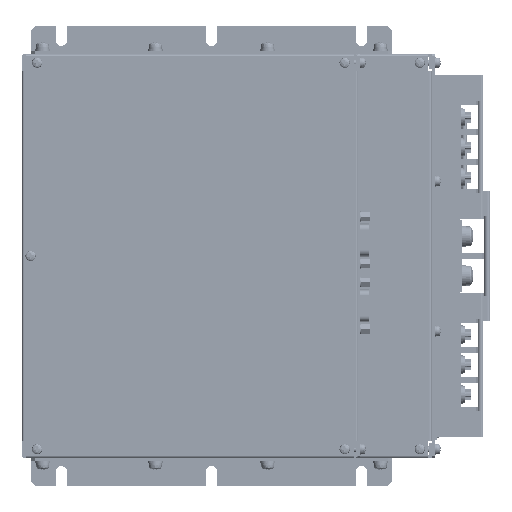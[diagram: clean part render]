
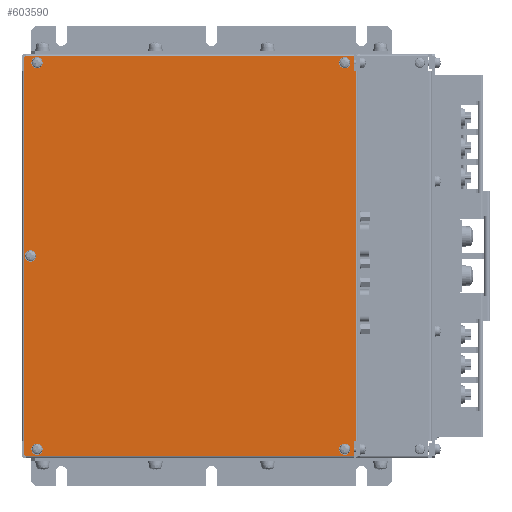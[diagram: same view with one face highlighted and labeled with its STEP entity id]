
A CAD part, left-side view. The second image highlights one B-rep face of the part: STEP entity #603590.
In plain terms, the highlighted planar face has unit normal (-1, 0, 0).
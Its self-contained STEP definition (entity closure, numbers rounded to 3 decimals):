
#603403=CARTESIAN_POINT('',(-95.,0.,0.));
#603404=DIRECTION('',(-1.,0.,0.));
#603405=DIRECTION('',(0.,-1.,0.));
#603406=AXIS2_PLACEMENT_3D('',#603403,#603404,#603405);
#603407=PLANE('',#603406);
#603408=CARTESIAN_POINT('',(-95.,-170.25,103.));
#603409=VERTEX_POINT('',#603408);
#603410=CARTESIAN_POINT('',(-95.,-173.75,103.));
#603411=VERTEX_POINT('',#603410);
#603412=CARTESIAN_POINT('',(-95.,-172.,103.));
#603413=DIRECTION('',(-1.,0.,0.));
#603414=DIRECTION('',(0.,-1.,0.));
#603415=AXIS2_PLACEMENT_3D('',#603412,#603413,#603414);
#603416=CIRCLE('',#603415,1.75);
#603417=EDGE_CURVE('',#603409,#603411,#603416,.T.);
#603418=ORIENTED_EDGE('',*,*,#603417,.F.);
#603419=CARTESIAN_POINT('',(-95.,-172.,103.));
#603420=DIRECTION('',(-1.,0.,0.));
#603421=DIRECTION('',(0.,-1.,0.));
#603422=AXIS2_PLACEMENT_3D('',#603419,#603420,#603421);
#603423=CIRCLE('',#603422,1.75);
#603424=EDGE_CURVE('',#603411,#603409,#603423,.T.);
#603425=ORIENTED_EDGE('',*,*,#603424,.F.);
#603426=EDGE_LOOP('',(#603418,#603425));
#603427=FACE_BOUND('',#603426,.T.);
#603428=CARTESIAN_POINT('',(-95.,-6.25,-103.));
#603429=VERTEX_POINT('',#603428);
#603430=CARTESIAN_POINT('',(-95.,-9.75,-103.));
#603431=VERTEX_POINT('',#603430);
#603432=CARTESIAN_POINT('',(-95.,-8.,-103.));
#603433=DIRECTION('',(-1.,0.,0.));
#603434=DIRECTION('',(0.,-1.,0.));
#603435=AXIS2_PLACEMENT_3D('',#603432,#603433,#603434);
#603436=CIRCLE('',#603435,1.75);
#603437=EDGE_CURVE('',#603429,#603431,#603436,.T.);
#603438=ORIENTED_EDGE('',*,*,#603437,.F.);
#603439=CARTESIAN_POINT('',(-95.,-8.,-103.));
#603440=DIRECTION('',(-1.,0.,0.));
#603441=DIRECTION('',(0.,-1.,0.));
#603442=AXIS2_PLACEMENT_3D('',#603439,#603440,#603441);
#603443=CIRCLE('',#603442,1.75);
#603444=EDGE_CURVE('',#603431,#603429,#603443,.T.);
#603445=ORIENTED_EDGE('',*,*,#603444,.F.);
#603446=EDGE_LOOP('',(#603438,#603445));
#603447=FACE_BOUND('',#603446,.T.);
#603448=CARTESIAN_POINT('',(-95.,-177.,-98.5));
#603449=VERTEX_POINT('',#603448);
#603450=CARTESIAN_POINT('',(-95.,-178.,-98.5));
#603451=VERTEX_POINT('',#603450);
#603452=CARTESIAN_POINT('',(-95.,-177.,-98.5));
#603453=DIRECTION('',(0.,-1.,0.));
#603454=VECTOR('',#603453,1.);
#603455=LINE('',#603452,#603454);
#603456=EDGE_CURVE('',#603449,#603451,#603455,.T.);
#603457=ORIENTED_EDGE('',*,*,#603456,.T.);
#603458=CARTESIAN_POINT('',(-95.,-178.,98.5));
#603459=VERTEX_POINT('',#603458);
#603460=CARTESIAN_POINT('',(-95.,-178.,-98.5));
#603461=DIRECTION('',(0.,0.,1.));
#603462=VECTOR('',#603461,197.);
#603463=LINE('',#603460,#603462);
#603464=EDGE_CURVE('',#603451,#603459,#603463,.T.);
#603465=ORIENTED_EDGE('',*,*,#603464,.T.);
#603466=CARTESIAN_POINT('',(-95.,-177.,98.5));
#603467=VERTEX_POINT('',#603466);
#603468=CARTESIAN_POINT('',(-95.,-178.,98.5));
#603469=DIRECTION('',(0.,1.,0.));
#603470=VECTOR('',#603469,1.);
#603471=LINE('',#603468,#603470);
#603472=EDGE_CURVE('',#603459,#603467,#603471,.T.);
#603473=ORIENTED_EDGE('',*,*,#603472,.T.);
#603474=CARTESIAN_POINT('',(-95.,-177.,106.5));
#603475=VERTEX_POINT('',#603474);
#603476=CARTESIAN_POINT('',(-95.,-177.,98.5));
#603477=DIRECTION('',(0.,0.,1.));
#603478=VECTOR('',#603477,8.);
#603479=LINE('',#603476,#603478);
#603480=EDGE_CURVE('',#603467,#603475,#603479,.T.);
#603481=ORIENTED_EDGE('',*,*,#603480,.T.);
#603482=CARTESIAN_POINT('',(-95.,-2.,106.5));
#603483=VERTEX_POINT('',#603482);
#603484=CARTESIAN_POINT('',(-95.,-177.,106.5));
#603485=DIRECTION('',(0.,1.,0.));
#603486=VECTOR('',#603485,175.);
#603487=LINE('',#603484,#603486);
#603488=EDGE_CURVE('',#603475,#603483,#603487,.T.);
#603489=ORIENTED_EDGE('',*,*,#603488,.T.);
#603490=CARTESIAN_POINT('',(-95.,-1.,105.5));
#603491=VERTEX_POINT('',#603490);
#603492=CARTESIAN_POINT('',(-95.,-2.,106.5));
#603493=DIRECTION('',(0.,0.707,-0.707));
#603494=VECTOR('',#603493,1.414);
#603495=LINE('',#603492,#603494);
#603496=EDGE_CURVE('',#603483,#603491,#603495,.T.);
#603497=ORIENTED_EDGE('',*,*,#603496,.T.);
#603498=CARTESIAN_POINT('',(-95.,-1.,-105.5));
#603499=VERTEX_POINT('',#603498);
#603500=CARTESIAN_POINT('',(-95.,-1.,105.5));
#603501=DIRECTION('',(0.,0.,-1.));
#603502=VECTOR('',#603501,211.);
#603503=LINE('',#603500,#603502);
#603504=EDGE_CURVE('',#603491,#603499,#603503,.T.);
#603505=ORIENTED_EDGE('',*,*,#603504,.T.);
#603506=CARTESIAN_POINT('',(-95.,-2.,-106.5));
#603507=VERTEX_POINT('',#603506);
#603508=CARTESIAN_POINT('',(-95.,-1.,-105.5));
#603509=DIRECTION('',(0.,-0.707,-0.707));
#603510=VECTOR('',#603509,1.414);
#603511=LINE('',#603508,#603510);
#603512=EDGE_CURVE('',#603499,#603507,#603511,.T.);
#603513=ORIENTED_EDGE('',*,*,#603512,.T.);
#603514=CARTESIAN_POINT('',(-95.,-177.,-106.5));
#603515=VERTEX_POINT('',#603514);
#603516=CARTESIAN_POINT('',(-95.,-2.,-106.5));
#603517=DIRECTION('',(0.,-1.,0.));
#603518=VECTOR('',#603517,175.);
#603519=LINE('',#603516,#603518);
#603520=EDGE_CURVE('',#603507,#603515,#603519,.T.);
#603521=ORIENTED_EDGE('',*,*,#603520,.T.);
#603522=CARTESIAN_POINT('',(-95.,-177.,-106.5));
#603523=DIRECTION('',(0.,0.,1.));
#603524=VECTOR('',#603523,8.);
#603525=LINE('',#603522,#603524);
#603526=EDGE_CURVE('',#603515,#603449,#603525,.T.);
#603527=ORIENTED_EDGE('',*,*,#603526,.T.);
#603528=EDGE_LOOP('',(#603457,#603465,#603473,#603481,#603489,#603497,#603505,#603513,#603521,#603527));
#603529=FACE_BOUND('',#603528,.T.);
#603530=CARTESIAN_POINT('',(-95.,-170.25,-103.));
#603531=VERTEX_POINT('',#603530);
#603532=CARTESIAN_POINT('',(-95.,-173.75,-103.));
#603533=VERTEX_POINT('',#603532);
#603534=CARTESIAN_POINT('',(-95.,-172.,-103.));
#603535=DIRECTION('',(-1.,0.,0.));
#603536=DIRECTION('',(0.,-1.,0.));
#603537=AXIS2_PLACEMENT_3D('',#603534,#603535,#603536);
#603538=CIRCLE('',#603537,1.75);
#603539=EDGE_CURVE('',#603531,#603533,#603538,.T.);
#603540=ORIENTED_EDGE('',*,*,#603539,.F.);
#603541=CARTESIAN_POINT('',(-95.,-172.,-103.));
#603542=DIRECTION('',(-1.,0.,0.));
#603543=DIRECTION('',(0.,-1.,0.));
#603544=AXIS2_PLACEMENT_3D('',#603541,#603542,#603543);
#603545=CIRCLE('',#603544,1.75);
#603546=EDGE_CURVE('',#603533,#603531,#603545,.T.);
#603547=ORIENTED_EDGE('',*,*,#603546,.F.);
#603548=EDGE_LOOP('',(#603540,#603547));
#603549=FACE_BOUND('',#603548,.T.);
#603550=CARTESIAN_POINT('',(-95.,-6.25,103.));
#603551=VERTEX_POINT('',#603550);
#603552=CARTESIAN_POINT('',(-95.,-9.75,103.));
#603553=VERTEX_POINT('',#603552);
#603554=CARTESIAN_POINT('',(-95.,-8.,103.));
#603555=DIRECTION('',(-1.,0.,0.));
#603556=DIRECTION('',(0.,-1.,0.));
#603557=AXIS2_PLACEMENT_3D('',#603554,#603555,#603556);
#603558=CIRCLE('',#603557,1.75);
#603559=EDGE_CURVE('',#603551,#603553,#603558,.T.);
#603560=ORIENTED_EDGE('',*,*,#603559,.F.);
#603561=CARTESIAN_POINT('',(-95.,-8.,103.));
#603562=DIRECTION('',(-1.,0.,0.));
#603563=DIRECTION('',(0.,-1.,0.));
#603564=AXIS2_PLACEMENT_3D('',#603561,#603562,#603563);
#603565=CIRCLE('',#603564,1.75);
#603566=EDGE_CURVE('',#603553,#603551,#603565,.T.);
#603567=ORIENTED_EDGE('',*,*,#603566,.F.);
#603568=EDGE_LOOP('',(#603560,#603567));
#603569=FACE_BOUND('',#603568,.T.);
#603570=CARTESIAN_POINT('',(-95.,-2.75,-0.));
#603571=VERTEX_POINT('',#603570);
#603572=CARTESIAN_POINT('',(-95.,-6.25,-0.));
#603573=VERTEX_POINT('',#603572);
#603574=CARTESIAN_POINT('',(-95.,-4.5,-0.));
#603575=DIRECTION('',(-1.,0.,0.));
#603576=DIRECTION('',(0.,-1.,0.));
#603577=AXIS2_PLACEMENT_3D('',#603574,#603575,#603576);
#603578=CIRCLE('',#603577,1.75);
#603579=EDGE_CURVE('',#603571,#603573,#603578,.T.);
#603580=ORIENTED_EDGE('',*,*,#603579,.F.);
#603581=CARTESIAN_POINT('',(-95.,-4.5,-0.));
#603582=DIRECTION('',(-1.,0.,0.));
#603583=DIRECTION('',(0.,-1.,0.));
#603584=AXIS2_PLACEMENT_3D('',#603581,#603582,#603583);
#603585=CIRCLE('',#603584,1.75);
#603586=EDGE_CURVE('',#603573,#603571,#603585,.T.);
#603587=ORIENTED_EDGE('',*,*,#603586,.F.);
#603588=EDGE_LOOP('',(#603580,#603587));
#603589=FACE_BOUND('',#603588,.T.);
#603590=ADVANCED_FACE('',(#603427,#603447,#603529,#603549,#603569,#603589),#603407,.T.);
